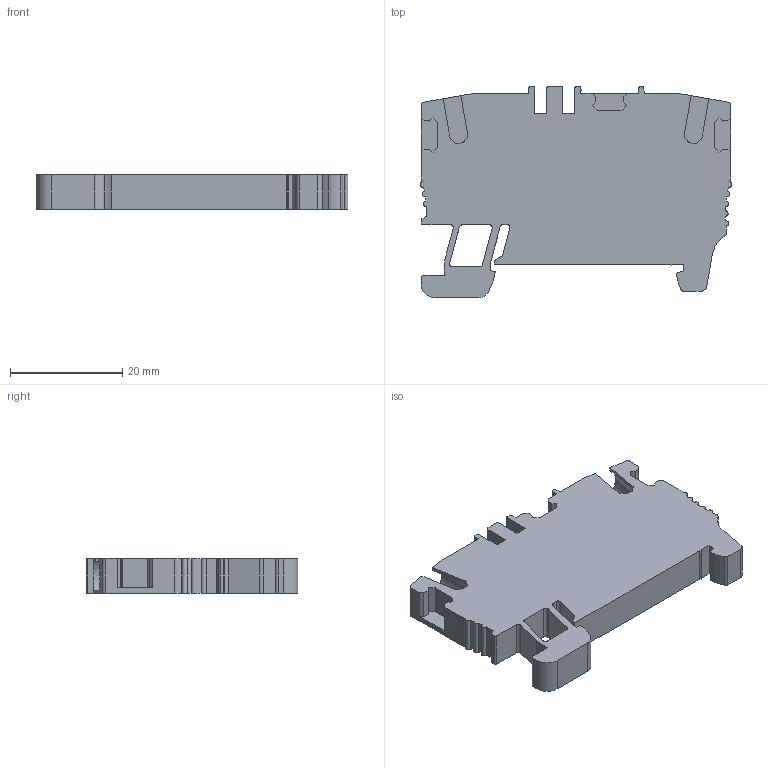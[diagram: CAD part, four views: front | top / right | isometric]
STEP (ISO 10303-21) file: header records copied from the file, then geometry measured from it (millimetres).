
FILE_DESCRIPTION(('Creo Elements/Direct Modeling STEP Export'),'2;1');
FILE_NAME('EFC.4.stp','2018-11-08T10:25:50',(''),(''),'Creo Elements/Direct Modeling STEP processor for AP214 (Solid Model)','Creo Elements/Direct Modeling 20.1 10-Mar-2018 (C) Parametric Technology GmbH','');
FILE_SCHEMA(('AUTOMOTIVE_DESIGN { 1 0 10303 214 1 1 1 1 }'));
Length unit declared in the file: millimetre
Products named in the file (1): EFC.4
Bounding box: 55.56 x 37.7 x 6.2 mm (x, y, z)
Volume: 9313.4 mm3; surface area: 5371.4 mm2
Topology: 1 solids, 1 shells, 199 faces, 578 edges, 386 vertices
Faces by surface type: plane 135, cylinder 64
Entity records: 6678 total; most frequent: ORIENTED_EDGE 1156, CARTESIAN_POINT 1145, DIRECTION 1083, EDGE_CURVE 578, VECTOR 435, LINE 435, VERTEX_POINT 386, AXIS2_PLACEMENT_3D 324
